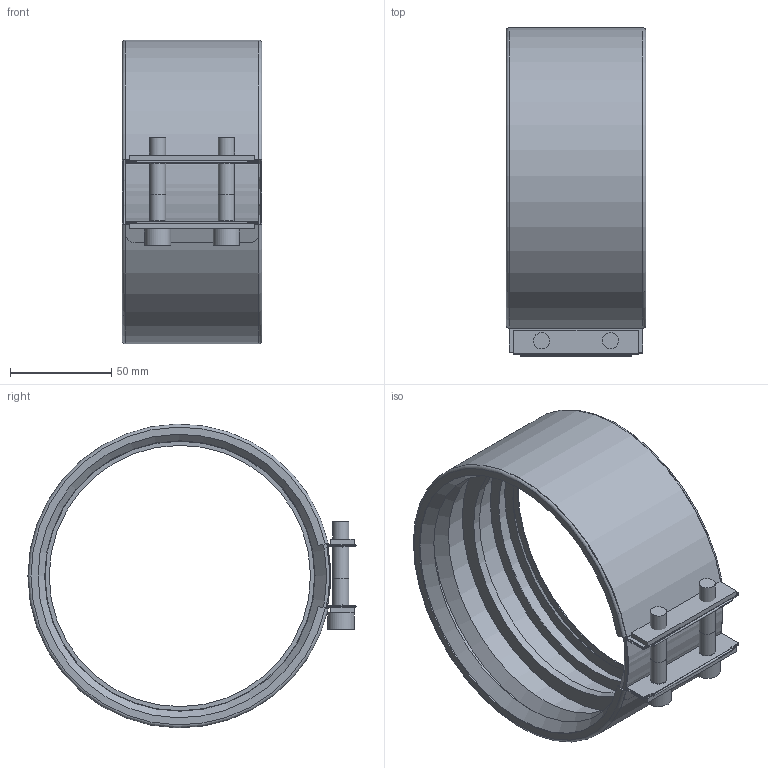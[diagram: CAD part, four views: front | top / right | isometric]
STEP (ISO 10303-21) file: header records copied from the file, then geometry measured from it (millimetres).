
FILE_DESCRIPTION(/* description */ (''),/* implementation_level */ '2;1');
FILE_NAME(/* name */ 'H:\Geberit-Teile\Export\Ü-Spannverb\stp\359446.stp',/* time_stamp */ '2017-11-13T11:08:48+01:00',/* author */ ('seihe2'),/* organization */ (''),/* preprocessor_version */ 'ST-DEVELOPER v15.2',/* originating_system */ 'Autodesk Inventor 2014',/* authorisation */ '');
FILE_SCHEMA (('AUTOMOTIVE_DESIGN { 1 0 10303 214 3 1 1 }'));
Length unit declared in the file: millimetre
Products named in the file (1): 359446
Bounding box: 69 x 162 x 149.96 mm (x, y, z)
Volume: 130349.9 mm3; surface area: 170900.6 mm2
Topology: 6 solids, 6 shells, 160 faces, 390 edges, 250 vertices
Faces by surface type: plane 106, cylinder 44, cone 4, torus 4, bspline 2
Full cylindrical faces by diameter (mm): 4.917 x2, 6 x2, 7.4 x4, 8 x10, 9 x2, 13 x2, 129 x1, 145 x4, 149 x1
Entity records: 4670 total; most frequent: CARTESIAN_POINT 827, DIRECTION 772, ORIENTED_EDGE 672, EDGE_CURVE 336, AXIS2_PLACEMENT_3D 281, EDGE_LOOP 232, VERTEX_POINT 228, LINE 210
